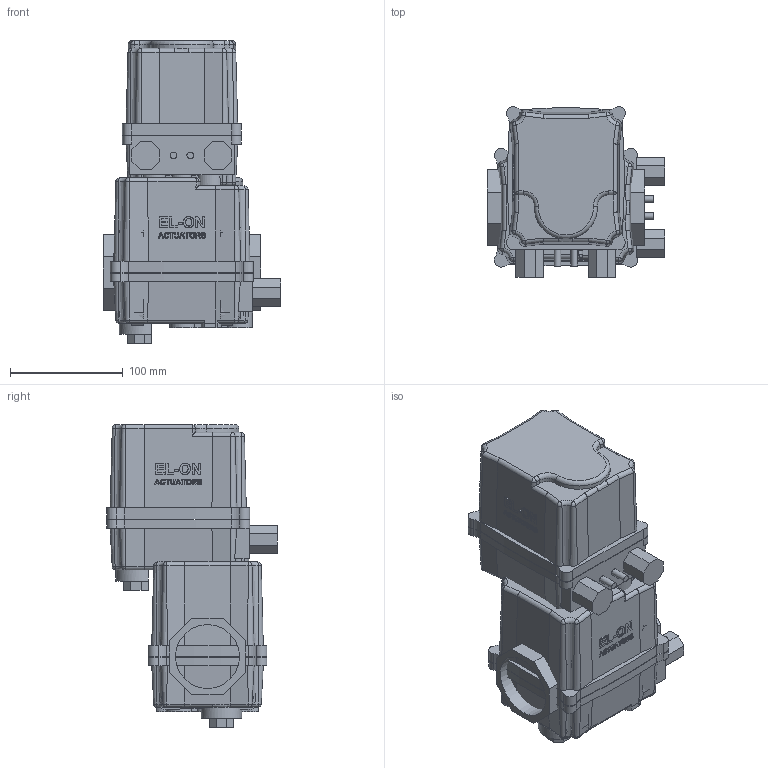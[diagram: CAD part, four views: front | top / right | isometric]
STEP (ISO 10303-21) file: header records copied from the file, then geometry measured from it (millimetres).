
FILE_DESCRIPTION( ( 'Unknown' ), '1' );
FILE_NAME( 'W:/ECCUA/ROOTSI BPS 3D vidinad/Kuulkraanid/Roostevaba kuulkraanid/Ball valve BPS 2420/Ball valve with electric actuator BPS/STEP formaat/BPS 2420050E ball valve DN50.stp', 'Unknown', ( 'Unknown' ), ( 'Unknown' ), 'PSStep 10.1', 'Unknown', ' ' );
FILE_SCHEMA( ( 'AUTOMOTIVE_DESIGN { 1 0 10303 214 1 1 1 1 }' ) );
Length unit declared in the file: millimetre
Products named in the file (4): Assem1; BPS 2420050 ball valve DN50; BPS 8005058 electric actuator DN40-100
Bounding box: 158 x 151.5 x 269 mm (x, y, z)
Volume: 4120836.2 mm3; surface area: 433983.6 mm2
Topology: 6 solids, 6 shells, 1302 faces, 3330 edges, 2170 vertices
Faces by surface type: plane 572, cylinder 314, extrusion 190, bspline 122, cone 82, torus 22
Full cylindrical faces by diameter (mm): 4.134 x16, 4.917 x8, 6 x4, 6.647 x8, 8 x24, 33 x2, 42 x2, 50 x2, 56.656 x4, 90 x2
Entity records: 34521 total; most frequent: CARTESIAN_POINT 14696, ORIENTED_EDGE 3106, DIRECTION 2536, EDGE_CURVE 1553, VERTEX_POINT 1062, VECTOR 880, AXIS2_PLACEMENT_3D 828, EDGE_LOOP 807
